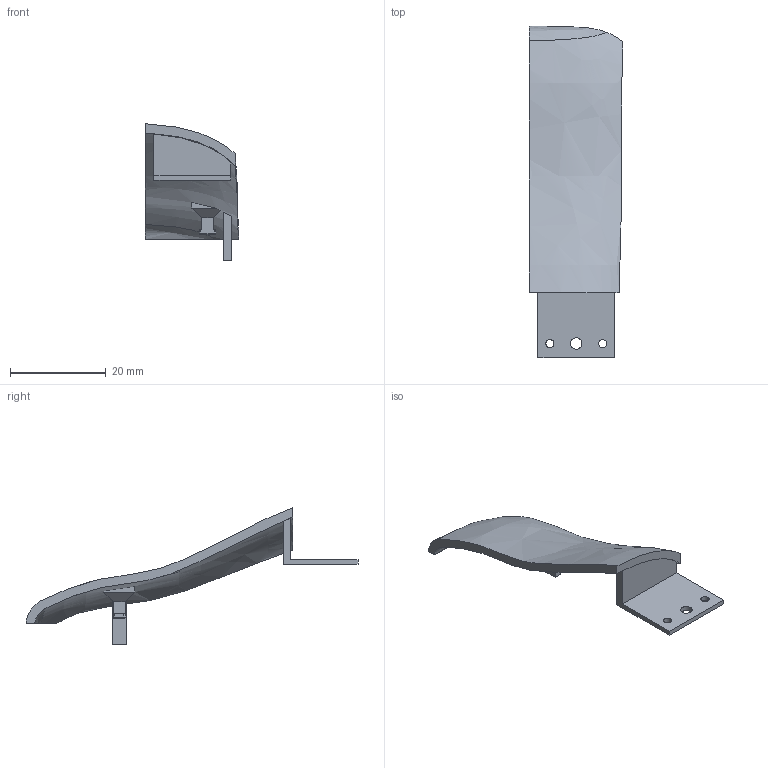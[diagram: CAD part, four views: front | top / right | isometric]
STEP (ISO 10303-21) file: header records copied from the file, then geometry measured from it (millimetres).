
FILE_DESCRIPTION(('Open CASCADE Model'),'2;1');
FILE_NAME('Open CASCADE Shape Model','2026-11-26T00:19:20',('Author'),( 'Open CASCADE'),'Open CASCADE STEP processor 7.9','build123d', 'Unknown');
FILE_SCHEMA(('AUTOMOTIVE_DESIGN { 1 0 10303 214 1 1 1 1 }'));
Products named in the file (1): SOLID
Bounding box: 19.64 x 69.37 x 28.53 mm (x, y, z)
Volume: 2655.8 mm3; surface area: 3556.5 mm2
Topology: 1 solids, 1 shells, 55 faces, 138 edges, 88 vertices
Faces by surface type: plane 32, cylinder 11, bspline 8, revolution 4
Full cylindrical faces by diameter (mm): 1.7 x2, 2.4 x1
Entity records: 91678 total; most frequent: CARTESIAN_POINT 89128, DIRECTION 383, ORIENTED_EDGE 276, PCURVE 276, DEFINITIONAL_REPRESENTATION 276, LINE 229, VECTOR 229, B_SPLINE_CURVE_WITH_KNOTS 149
